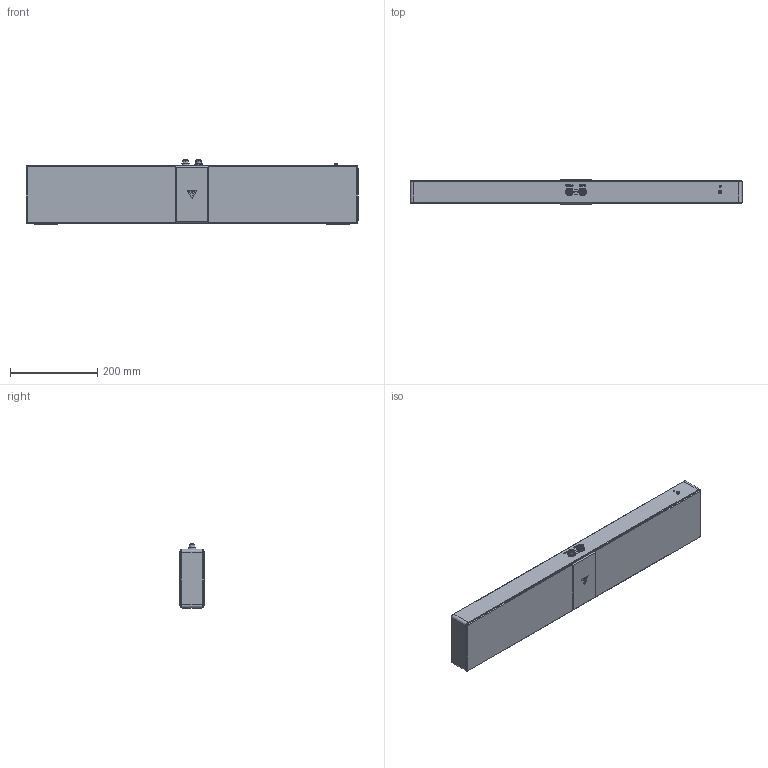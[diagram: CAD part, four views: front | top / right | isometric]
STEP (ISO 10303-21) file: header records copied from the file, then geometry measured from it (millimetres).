
FILE_DESCRIPTION(/* description */ (''),/* implementation_level */ '2;1');
FILE_NAME(/* name */ 'RVC-P31300',/* time_stamp */ '2024-01-17T17:38:08+08:00',/* author */ (''),/* organization */ (''),/* preprocessor_version */ 'ST-DEVELOPER v16.5',/* originating_system */ 'Rhino 7.25',/* authorisation */ '');
FILE_SCHEMA (('CONFIG_CONTROL_DESIGN'));
Length unit declared in the file: millimetre
Products named in the file (1): Document
Bounding box: 760 x 57 x 146.6 mm (x, y, z)
Volume: 5431565 mm3; surface area: 302811.7 mm2
Topology: 1 solids, 1 shells, 874 faces, 2128 edges, 1368 vertices
Faces by surface type: plane 445, cylinder 227, bspline 202
Entity records: 39776 total; most frequent: CARTESIAN_POINT 23987, ORIENTED_EDGE 4240, EDGE_CURVE 2120, B_SPLINE_CURVE_WITH_KNOTS 1456, VERTEX_POINT 1368, EDGE_LOOP 1000, ADVANCED_FACE 874, FACE_OUTER_BOUND 874
